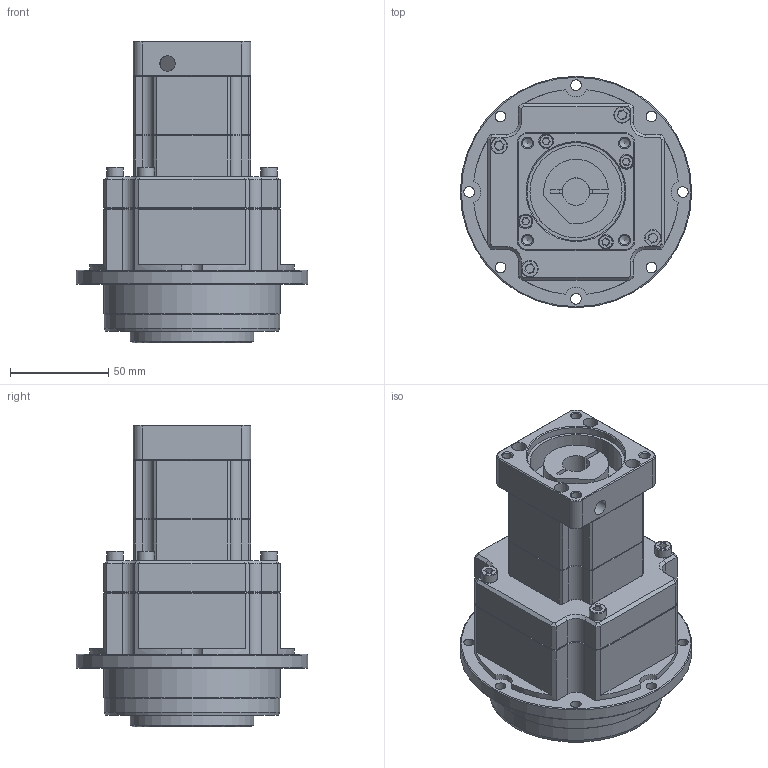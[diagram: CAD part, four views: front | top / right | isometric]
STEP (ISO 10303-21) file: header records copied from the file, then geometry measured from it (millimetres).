
FILE_DESCRIPTION((''),'2;1');
FILE_NAME('D:\유성\유성\도면\3D\2. 홈페이지용 3D 도면 (ipt)\외부도\SPIFH090\SPIFH090 DOWN\SPIFH090D SERIES (2 STAGE-A TYPE)_Shrinkwrap_1.stp','2014-05-08T14:59:18',('nagyu'),(''),'Autodesk Inventor 2013','Autodesk Inventor 2013','');
FILE_SCHEMA(('AUTOMOTIVE_DESIGN { 1 0 10303 214 1 1 1 1 }'));
Length unit declared in the file: millimetre
Products named in the file (1): SPIFH090D SERIES (2 STAGE-A TYPE)_Shrinkwrap_1
Bounding box: 118 x 118 x 154.08 mm (x, y, z)
Volume: 776446.8 mm3; surface area: 81378.4 mm2
Topology: 9 solids, 9 shells, 564 faces, 1288 edges, 780 vertices
Faces by surface type: plane 260, cylinder 171, cone 115, bspline 16, torus 2
Full cylindrical faces by diameter (mm): 4.5 x4, 4.917 x7, 5 x4, 5.5 x12, 6 x1, 7 x4, 7.5 x4, 8 x1, 8.5 x4, 10 x7, 14 x1, 17 x1, 31.5 x1, 47 x1, 50 x1, 63 x1, 89.4 x1, 90 x1, 118 x1
Entity records: 24189 total; most frequent: CARTESIAN_POINT 11803, DIRECTION 2562, ORIENTED_EDGE 2308, EDGE_CURVE 1154, AXIS2_PLACEMENT_3D 984, VERTEX_POINT 750, EDGE_LOOP 734, VECTOR 594
